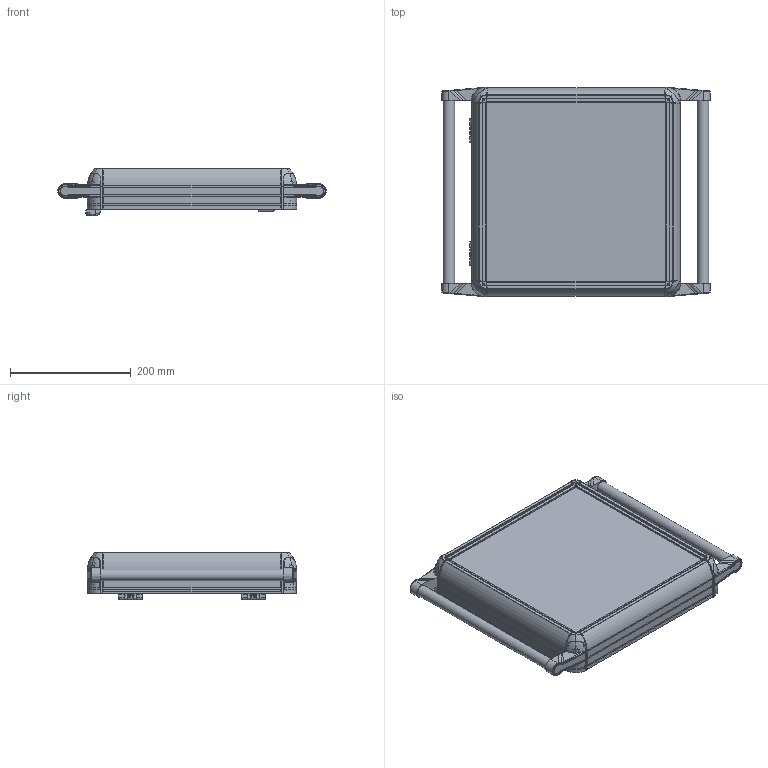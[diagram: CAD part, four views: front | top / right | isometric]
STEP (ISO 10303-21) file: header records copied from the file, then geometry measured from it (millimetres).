
FILE_DESCRIPTION (( 'STEP AP214' ), '1' );
FILE_NAME ('6000-0204.STEP', '2022-08-31T13:09:34', ( '' ), ( '' ), 'SwSTEP 2.0', 'SolidWorks 2022', '' );
FILE_SCHEMA (( 'AUTOMOTIVE_DESIGN' ));
Length unit declared in the file: millimetre
Products named in the file (7): 300X300; boru_325; 6000-0204; HPECO-060-001-295_295; ECO6000-0100(SAÐ); ECO6000-0100(SOL); ARKA_KAPAK_300X300
Assembly tree (12 placements, depth 2):
  6000-0204
    300X300
    ARKA_KAPAK_300X300
    HPECO-060-001-295_295  x4
    ECO6000-0100(SAÐ)  x2
    ECO6000-0100(SOL)  x2
    boru_325  x2
Bounding box: 444.62 x 347 x 79.15 mm (x, y, z)
Volume: 1845916.7 mm3; surface area: 847330.7 mm2
Topology: 20 solids, 78 shells, 5549 faces, 14842 edges, 9228 vertices
Faces by surface type: plane 2093, cylinder 1478, bspline 1108, cone 528, torus 296, sphere 46
Entity records: 179839 total; most frequent: CARTESIAN_POINT 48723, ORIENTED_EDGE 20708, DIRECTION 17220, EDGE_CURVE 10354, VERTEX_POINT 6445, AXIS2_PLACEMENT_3D 6345, LINE 4530, VECTOR 4530
